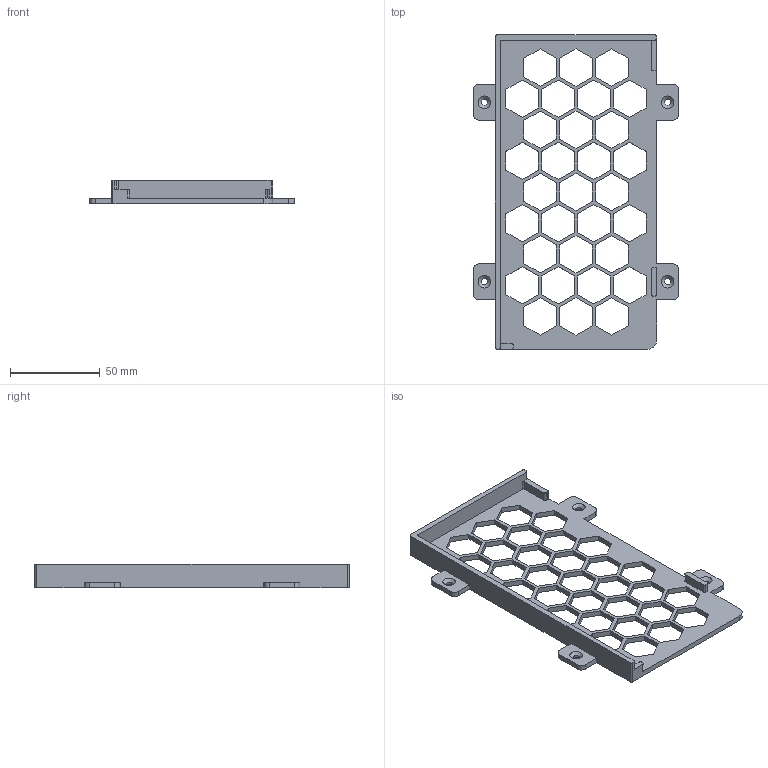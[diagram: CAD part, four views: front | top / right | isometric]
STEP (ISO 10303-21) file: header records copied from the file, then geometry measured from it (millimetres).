
FILE_DESCRIPTION(('Open CASCADE Model'),'2;1');
FILE_NAME('Open CASCADE Shape Model','2026-10-26T02:40:43',('Author'),( 'Open CASCADE'),'Open CASCADE STEP processor 7.9','build123d', 'Unknown');
FILE_SCHEMA(('AUTOMOTIVE_DESIGN { 1 0 10303 214 1 1 1 1 }'));
Length unit declared in the file: millimetre
Products named in the file (1): SOLID
Bounding box: 114 x 175 x 13 mm (x, y, z)
Volume: 32209.6 mm3; surface area: 29327.4 mm2
Topology: 1 solids, 1 shells, 255 faces, 752 edges, 500 vertices
Faces by surface type: plane 222, cylinder 29, cone 4
Full cylindrical faces by diameter (mm): 3.6 x4
Entity records: 18416 total; most frequent: CARTESIAN_POINT 3240, DIRECTION 2792, LINE 2136, VECTOR 2136, ORIENTED_EDGE 1504, PCURVE 1504, DEFINITIONAL_REPRESENTATION 1504, EDGE_CURVE 752
